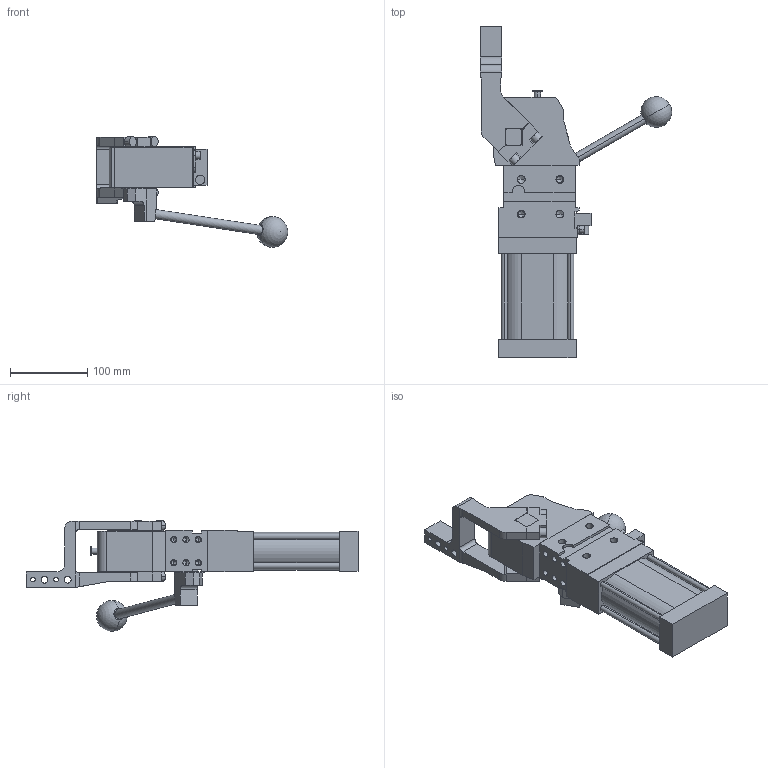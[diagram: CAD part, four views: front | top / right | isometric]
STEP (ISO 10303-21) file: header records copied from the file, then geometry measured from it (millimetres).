
FILE_DESCRIPTION (( 'STEP AP214' ), '1' );
FILE_NAME ('cplm63lbh1di1g_107.STEP', '2023-01-26T14:34:45', ( '' ), ( '' ), 'SwSTEP 2.0', 'SolidWorks 2022', '' );
FILE_SCHEMA (( 'AUTOMOTIVE_DESIGN' ));
Length unit declared in the file: millimetre
Products named in the file (5): blocchetto_VEP_0; meccanica_cplm_63; comando_manuale_cplm_63; cplm63lbh1di1g_107; leva_sx_offset_15_cpl63
Assembly tree (4 placements, depth 2):
  cplm63lbh1di1g_107
    meccanica_cplm_63
    blocchetto_VEP_0
    leva_sx_offset_15_cpl63
    comando_manuale_cplm_63
Bounding box: 247.96 x 430.5 x 143.5 mm (x, y, z)
Volume: 1866260.9 mm3; surface area: 206781.4 mm2
Topology: 4 solids, 4 shells, 430 faces, 1128 edges, 699 vertices
Faces by surface type: plane 217, cylinder 161, cone 50, sphere 2
Entity records: 14523 total; most frequent: CARTESIAN_POINT 2312, DIRECTION 2297, ORIENTED_EDGE 2154, EDGE_CURVE 1077, AXIS2_PLACEMENT_3D 795, LINE 707, VECTOR 707, VERTEX_POINT 696
